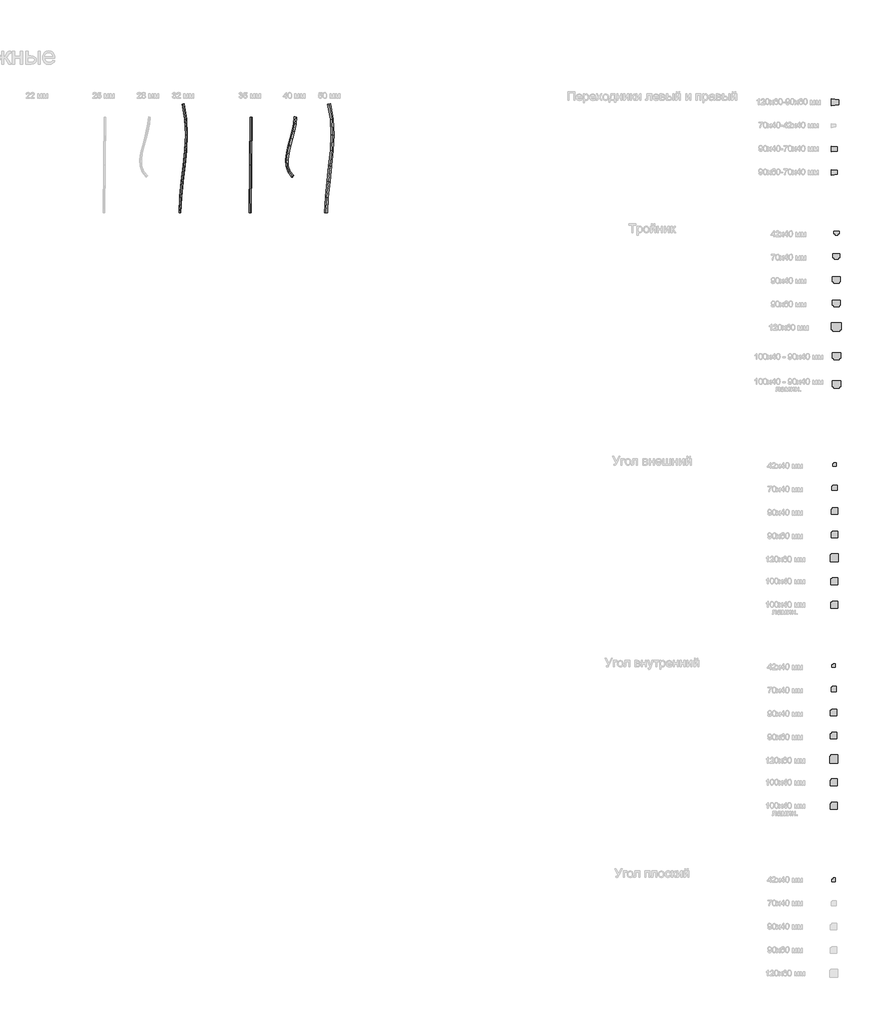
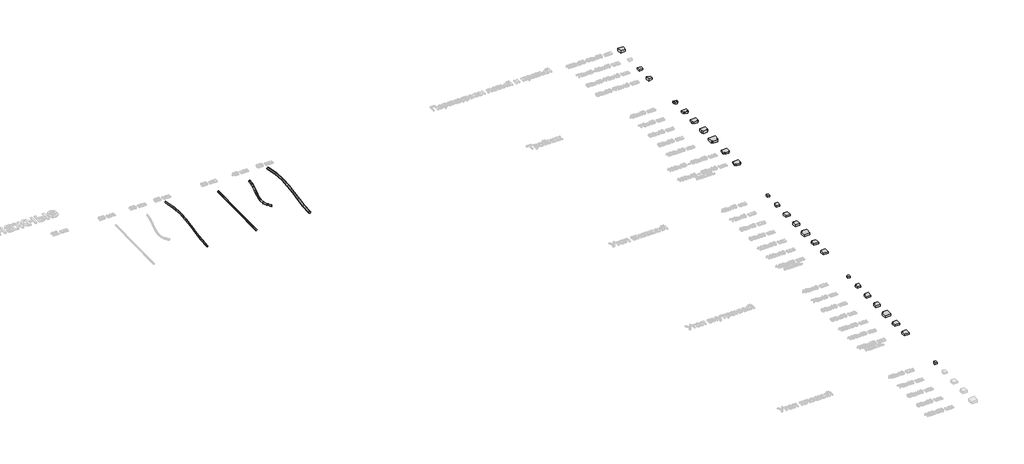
# One storey, part 3 of 21: 25 duct fittings, 4 pipe segments.
"""IFC4 building model written with IfcOpenShell, lengths in millimetres."""

from ifc_helpers import new_model, si_unit, frame, origin, place, context, project, spatial, circle_curve, ellipse_curve, transform, mapped, element, save
from ifc_brep_helpers import plane_surface, cylinder_surface, advanced_brep
from components import duct_fitting_06093752, duct_fitting_1aed79c7, duct_fitting_c945c0e5, duct_fitting_b46aa33a, duct_fitting_86009746, duct_fitting_a73f6a7c, duct_fitting_fd687a1e, duct_fitting_01047fc7, duct_fitting_fa5662ab, duct_fitting_3a38929a, duct_fitting_99bbee2b, duct_fitting_9a85774a, duct_fitting_284b123f, duct_fitting_fdef7a42, duct_fitting_c4454b5f

model = new_model("IFC4")

# Units and contexts
model_context = context("Model", 3, world=origin())
ifc_project = project(units=[si_unit("LENGTHUNIT", "METRE", prefix="MILLI")], contexts=[model_context])

# Site, building, storey
site = spatial("IfcSite", under=ifc_project)
building = spatial("IfcBuilding", under=site)
storey = spatial("IfcBuildingStorey", under=building, Name="Этаж 01", Elevation=0.0)

# Duct fittings
placement = place(None, origin())
duct_fitting_shape = duct_fitting_06093752(model_context)
element("IfcDuctFitting", 1, ObjectType="КНС_Тройник_DKC : Стандарт", at=placement, inside=storey, context=model_context, shape_type="MappedRepresentation", body=[
    mapped(duct_fitting_shape, transform((23924.4316977, -4723.4298614, 0.0), x_axis=(1.0, 0.0, 0.0), y_axis=(0.0, 1.0, 0.0), z_axis=(0.0, 0.0, 1.0))),
])
duct_fitting_2_shape = duct_fitting_1aed79c7(model_context)
element("IfcDuctFitting", 2, ObjectType="КНС_Переходники_DKC : Переходники_DKC", at=placement, inside=storey, context=model_context, shape_type="MappedRepresentation", body=[
    mapped(duct_fitting_2_shape, transform((23840.6780832, -2495.8694479, -0.1437767), x_axis=(0.9999998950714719, 0.0, -0.0004581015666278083), y_axis=(0.0, 1.0000000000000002, 0.0), z_axis=(0.0004581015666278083, 0.0, 0.9999998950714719))),
])
duct_fitting_3_shape = duct_fitting_c945c0e5(model_context)
element("IfcDuctFitting", 3, ObjectType="КНС_Переходники_DKC : Переходники_DKC", at=placement, inside=storey, context=model_context, shape_type="MappedRepresentation", body=[
    mapped(duct_fitting_3_shape, transform((23840.6780832, -3295.8694479, -0.1437767), x_axis=(0.9999999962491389, 0.0, -8.661248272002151e-05), y_axis=(0.0, 1.0, 0.0), z_axis=(8.661248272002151e-05, 0.0, 0.9999999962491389))),
])
duct_fitting_4_shape = duct_fitting_b46aa33a(model_context)
element("IfcDuctFitting", 4, ObjectType="КНС_Переходники_DKC : Переходники_DKC", at=placement, inside=storey, context=model_context, shape_type="MappedRepresentation", body=[
    mapped(duct_fitting_4_shape, transform((23840.6780832, -3695.8694479, -0.1437767), x_axis=(0.9999999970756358, 0.0, -7.647697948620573e-05), y_axis=(0.0, 1.0, 0.0), z_axis=(7.647697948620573e-05, 0.0, 0.9999999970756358))),
])
duct_fitting_5_shape = duct_fitting_86009746(model_context)
element("IfcDuctFitting", 5, ObjectType="КНС_Угол_DKC : Угол внешний", at=placement, inside=storey, context=model_context, shape_type="MappedRepresentation", body=[
    mapped(duct_fitting_5_shape, transform((23900.1829841, -9098.0073447, 0.0), x_axis=(1.0, 0.0, 0.0), y_axis=(0.0, 1.0, 0.0), z_axis=(0.0, 0.0, 1.0))),
])
duct_fitting_6_shape = duct_fitting_a73f6a7c(model_context)
element("IfcDuctFitting", 6, ObjectType="КНС_Угол_DKC : Угол внутренний", at=placement, inside=storey, context=model_context, shape_type="MappedRepresentation", body=[
    mapped(duct_fitting_6_shape, transform((23888.0062655, -12939.0845194, 0.0), x_axis=(1.0, 0.0, 0.0), y_axis=(0.0, 1.0, 0.0), z_axis=(0.0, 0.0, 1.0))),
])
duct_fitting_7_shape = duct_fitting_fd687a1e(model_context)
element("IfcDuctFitting", 7, ObjectType="КНС_Тройник_DKC : Стандарт", at=placement, inside=storey, context=model_context, shape_type="MappedRepresentation", body=[
    mapped(duct_fitting_7_shape, transform((23924.4316977, -5123.4298614, 0.0), x_axis=(1.0, 0.0, 0.0), y_axis=(0.0, 1.0, 0.0), z_axis=(0.0, 0.0, 1.0))),
])
duct_fitting_8_shape = duct_fitting_01047fc7(model_context)
element("IfcDuctFitting", 8, ObjectType="КНС_Тройник_DKC : Стандарт", at=placement, inside=storey, context=model_context, shape_type="MappedRepresentation", body=[
    mapped(duct_fitting_8_shape, transform((23924.4316977, -5523.4298614, 0.0), x_axis=(1.0, 0.0, 0.0), y_axis=(0.0, 1.0, 0.0), z_axis=(0.0, 0.0, 1.0))),
])
duct_fitting_9_shape = duct_fitting_fa5662ab(model_context)
element("IfcDuctFitting", 9, ObjectType="КНС_Тройник_DKC : Стандарт", at=placement, inside=storey, context=model_context, shape_type="MappedRepresentation", body=[
    mapped(duct_fitting_9_shape, transform((23924.4316977, -5923.4298614, 0.0), x_axis=(1.0, 0.0, 0.0), y_axis=(0.0, 1.0, 0.0), z_axis=(0.0, 0.0, 1.0))),
])
duct_fitting_10_shape = duct_fitting_3a38929a(model_context)
element("IfcDuctFitting", 10, ObjectType="КНС_Тройник_DKC : Стандарт", at=placement, inside=storey, context=model_context, shape_type="MappedRepresentation", body=[
    mapped(duct_fitting_10_shape, transform((23924.4316977, -6323.4298614, 0.0), x_axis=(1.0, 0.0, 0.0), y_axis=(0.0, 1.0, 0.0), z_axis=(0.0, 0.0, 1.0))),
])
duct_fitting_11_shape = duct_fitting_99bbee2b(model_context)
element("IfcDuctFitting", 11, ObjectType="КНС_Тройник_DKC : Стандарт", at=placement, inside=storey, context=model_context, shape_type="MappedRepresentation", body=[
    mapped(duct_fitting_11_shape, transform((23926.7685504, -6826.62577, 0.0), x_axis=(1.0, 0.0, 0.0), y_axis=(0.0, 1.0, 0.0), z_axis=(0.0, 0.0, 1.0))),
])
element("IfcDuctFitting", 12, ObjectType="КНС_Тройник_DKC : Стандарт", at=placement, inside=storey, context=model_context, shape_type="MappedRepresentation", body=[
    mapped(duct_fitting_11_shape, transform((23926.7685504, -7311.8186367, 0.0), x_axis=(1.0, 0.0, 0.0), y_axis=(0.0, 1.0, 0.0), z_axis=(0.0, 0.0, 1.0))),
])
duct_fitting_12_shape = duct_fitting_9a85774a(model_context)
element("IfcDuctFitting", 13, ObjectType="КНС_Угол_DKC : Угол внешний", at=placement, inside=storey, context=model_context, shape_type="MappedRepresentation", body=[
    mapped(duct_fitting_12_shape, transform((23900.1829841, -8698.0073447, 0.0), x_axis=(1.0, 0.0, 0.0), y_axis=(0.0, 1.0, 0.0), z_axis=(0.0, 0.0, 1.0))),
])
element("IfcDuctFitting", 14, ObjectType="КНС_Угол_DKC : Угол внешний", at=placement, inside=storey, context=model_context, shape_type="MappedRepresentation", body=[
    mapped(duct_fitting_6_shape, transform((23900.1829841, -9498.0073447, 0.0), x_axis=(1.0, 0.0, 0.0), y_axis=(0.0, 1.0, 0.0), z_axis=(0.0, 0.0, 1.0))),
])
duct_fitting_13_shape = duct_fitting_284b123f(model_context)
element("IfcDuctFitting", 15, ObjectType="КНС_Угол_DKC : Угол внешний", at=placement, inside=storey, context=model_context, shape_type="MappedRepresentation", body=[
    mapped(duct_fitting_13_shape, transform((23900.1829841, -9898.0073447, 0.0), x_axis=(1.0, 0.0, 0.0), y_axis=(0.0, 1.0, 0.0), z_axis=(0.0, 0.0, 1.0))),
])
duct_fitting_14_shape = duct_fitting_fdef7a42(model_context)
element("IfcDuctFitting", 16, ObjectType="КНС_Угол_DKC : Угол внешний", at=placement, inside=storey, context=model_context, shape_type="MappedRepresentation", body=[
    mapped(duct_fitting_14_shape, transform((23900.1829841, -10298.0073447, 0.0), x_axis=(1.0, 0.0, 0.0), y_axis=(0.0, 1.0, 0.0), z_axis=(0.0, 0.0, 1.0))),
])
duct_fitting_15_shape = duct_fitting_c4454b5f(model_context)
element("IfcDuctFitting", 17, ObjectType="КНС_Угол_DKC : Угол внешний", at=placement, inside=storey, context=model_context, shape_type="MappedRepresentation", body=[
    mapped(duct_fitting_15_shape, transform((23900.1829841, -10698.0073447, 0.0), x_axis=(1.0, 0.0, 0.0), y_axis=(0.0, 1.0, 0.0), z_axis=(0.0, 0.0, 1.0))),
])
element("IfcDuctFitting", 18, ObjectType="КНС_Угол_DKC : Угол внешний", at=placement, inside=storey, context=model_context, shape_type="MappedRepresentation", body=[
    mapped(duct_fitting_15_shape, transform((23900.1829841, -11098.0073447, 0.0), x_axis=(1.0, 0.0, 0.0), y_axis=(0.0, 1.0, 0.0), z_axis=(0.0, 0.0, 1.0))),
])
element("IfcDuctFitting", 19, ObjectType="КНС_Угол_DKC : Угол внутренний", at=placement, inside=storey, context=model_context, shape_type="MappedRepresentation", body=[
    mapped(duct_fitting_12_shape, transform((23888.0062655, -12139.0845194, 0.0), x_axis=(1.0, 0.0, 0.0), y_axis=(0.0, 1.0, 0.0), z_axis=(0.0, 0.0, 1.0))),
])
element("IfcDuctFitting", 20, ObjectType="КНС_Угол_DKC : Угол внутренний", at=placement, inside=storey, context=model_context, shape_type="MappedRepresentation", body=[
    mapped(duct_fitting_5_shape, transform((23888.0062655, -12539.0845194, 0.0), x_axis=(1.0, 0.0, 0.0), y_axis=(0.0, 1.0, 0.0), z_axis=(0.0, 0.0, 1.0))),
])
element("IfcDuctFitting", 21, ObjectType="КНС_Угол_DKC : Угол внутренний", at=placement, inside=storey, context=model_context, shape_type="MappedRepresentation", body=[
    mapped(duct_fitting_13_shape, transform((23888.0062655, -13339.0845194, 0.0), x_axis=(1.0, 0.0, 0.0), y_axis=(0.0, 1.0, 0.0), z_axis=(0.0, 0.0, 1.0))),
])
element("IfcDuctFitting", 22, ObjectType="КНС_Угол_DKC : Угол внутренний", at=placement, inside=storey, context=model_context, shape_type="MappedRepresentation", body=[
    mapped(duct_fitting_14_shape, transform((23888.0062655, -13739.0845194, 0.0), x_axis=(1.0, 0.0, 0.0), y_axis=(0.0, 1.0, 0.0), z_axis=(0.0, 0.0, 1.0))),
])
element("IfcDuctFitting", 23, ObjectType="КНС_Угол_DKC : Угол внутренний", at=placement, inside=storey, context=model_context, shape_type="MappedRepresentation", body=[
    mapped(duct_fitting_15_shape, transform((23888.0062655, -14139.0845194, 0.0), x_axis=(1.0, 0.0, 0.0), y_axis=(0.0, 1.0, 0.0), z_axis=(0.0, 0.0, 1.0))),
])
element("IfcDuctFitting", 24, ObjectType="КНС_Угол_DKC : Угол внутренний", at=placement, inside=storey, context=model_context, shape_type="MappedRepresentation", body=[
    mapped(duct_fitting_15_shape, transform((23888.0062655, -14539.0845194, 0.0), x_axis=(1.0, 0.0, 0.0), y_axis=(0.0, 1.0, 0.0), z_axis=(0.0, 0.0, 1.0))),
])
element("IfcDuctFitting", 25, ObjectType="КНС_Угол_DKC : Угол плоский", at=placement, inside=storey, context=model_context, shape_type="MappedRepresentation", body=[
    mapped(duct_fitting_12_shape, transform((23888.0062655, -15803.6960655, 0.0), x_axis=(1.0, 0.0, 0.0), y_axis=(0.0, 1.0, 0.0), z_axis=(0.0, 0.0, 1.0))),
])

# Pipe segments
element("IfcPipeSegment", 26, ObjectType="Шланги дренажные ДКС", at=placement, inside=storey, context=model_context, shape_type="AdvancedBrep", body=[
    advanced_brep(
    [(12759.8479046, -2525.381549, 0.0), (12744.0909127, -2528.159535, -16.0), (12728.3339208, -2530.937521, 0.0), (12744.0909127, -2528.159535, 16.0), (12805.7040434, -2785.4817838, 0.0), (12789.7682496, -2787.2455891, -16.0), (12773.8324558, -2789.0093943, 0.0), (12789.7682496, -2787.2455891, 16.0), (12706.781953, -4384.5212373, 0.0), (12690.8022237, -4383.716097, 16.0), (12674.8224944, -4382.9109567, 0.0), (12690.8022237, -4383.716097, -16.0), (12817.8678662, -3049.9673686, 0.0), (12801.8512205, -3049.9731598, -16.0), (12785.8345748, -3049.9789511, 0.0), (12801.8512205, -3049.9731598, 16.0), (12805.8025081, -3316.5118467, 0.0), (12789.8384436, -3315.3560282, -16.0), (12773.8743791, -3314.2002097, 0.0), (12789.8384436, -3315.3560282, 16.0), (12779.1349651, -3584.142224, 0.0), (12763.2285373, -3582.4079752, -16.0), (12747.3221094, -3580.6737264, 0.0), (12763.2285373, -3582.4079752, 16.0), (12747.4242467, -3851.8964581, 0.0), (12731.5201197, -3850.1427817, -16.0), (12715.6159927, -3848.3891052, 0.0), (12731.5201197, -3850.1427817, 16.0), (12720.1708344, -4118.7902828, 0.0), (12704.2118091, -4117.5742286, -16.0), (12688.2527837, -4116.3581744, 0.0), (12704.2118091, -4117.5742286, 16.0)],
    [
        (0, 1, circle_curve(frame((12744.0909127, -2528.159535, 0.0), z_axis=(-0.17362412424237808, 0.9848119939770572, 0.0), x_axis=(0.9848119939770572, 0.17362412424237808, 0.0)), 16.0)),
        (1, 2, circle_curve(frame((12744.0909127, -2528.159535, 0.0), z_axis=(-0.17362412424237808, 0.9848119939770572, 0.0), x_axis=(0.9848119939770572, 0.17362412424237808, 0.0)), 16.0)),
        (2, 3, circle_curve(frame((12744.0909127, -2528.159535, 0.0), z_axis=(-0.17362412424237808, 0.9848119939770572, 0.0), x_axis=(0.9848119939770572, 0.17362412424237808, 0.0)), 16.0)),
        (3, 0, circle_curve(frame((12744.0909127, -2528.159535, 0.0), z_axis=(-0.17362412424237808, 0.9848119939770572, 0.0), x_axis=(0.9848119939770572, 0.17362412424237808, 0.0)), 16.0)),
        (0, 4),
        (4, 5, ellipse_curve(frame((12789.7682496, -2787.2455891, 0.0), z_axis=(-0.11001019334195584, 0.9939304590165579, 0.0), x_axis=(-0.9939304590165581, -0.1100101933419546, 0.0)), 16.0331074, 16.0)),
        (5, 1),
        (5, 6, ellipse_curve(frame((12789.7682496, -2787.2455891, 0.0), z_axis=(-0.11001019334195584, 0.9939304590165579, 0.0), x_axis=(-0.9939304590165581, -0.1100101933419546, 0.0)), 16.0331074, 16.0)),
        (6, 2),
        (6, 7, ellipse_curve(frame((12789.7682496, -2787.2455891, 0.0), z_axis=(-0.11001019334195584, 0.9939304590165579, 0.0), x_axis=(-0.9939304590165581, -0.1100101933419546, 0.0)), 16.0331074, 16.0)),
        (7, 3),
        (7, 4, ellipse_curve(frame((12789.7682496, -2787.2455891, 0.0), z_axis=(-0.11001019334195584, 0.9939304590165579, 0.0), x_axis=(-0.9939304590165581, -0.1100101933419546, 0.0)), 16.0331074, 16.0)),
        (8, 9, circle_curve(frame((12690.8022237, -4383.716097, 0.0), z_axis=(-0.05032126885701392, -0.9987330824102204, 0.0), x_axis=(0.9987330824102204, -0.05032126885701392, 0.0)), 16.0)),
        (9, 10, circle_curve(frame((12690.8022237, -4383.716097, 0.0), z_axis=(-0.05032126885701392, -0.9987330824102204, 0.0), x_axis=(0.9987330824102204, -0.05032126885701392, 0.0)), 16.0)),
        (10, 11, circle_curve(frame((12690.8022237, -4383.716097, 0.0), z_axis=(-0.05032126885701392, -0.9987330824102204, 0.0), x_axis=(0.9987330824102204, -0.05032126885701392, 0.0)), 16.0)),
        (11, 8, circle_curve(frame((12690.8022237, -4383.716097, 0.0), z_axis=(-0.05032126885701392, -0.9987330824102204, 0.0), x_axis=(0.9987330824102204, -0.05032126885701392, 0.0)), 16.0)),
        (4, 12),
        (12, 13, ellipse_curve(frame((12801.8512205, -3049.9731598, 0.0), z_axis=(-0.00036157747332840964, 0.9999999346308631, 0.0), x_axis=(-0.9999999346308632, -0.0003615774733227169, 0.0)), 16.0166468, 16.0)),
        (13, 5),
        (13, 14, ellipse_curve(frame((12801.8512205, -3049.9731598, 0.0), z_axis=(-0.00036157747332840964, 0.9999999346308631, 0.0), x_axis=(-0.9999999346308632, -0.0003615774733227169, 0.0)), 16.0166468, 16.0)),
        (14, 6),
        (14, 15, ellipse_curve(frame((12801.8512205, -3049.9731598, 0.0), z_axis=(-0.00036157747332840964, 0.9999999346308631, 0.0), x_axis=(-0.9999999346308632, -0.0003615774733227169, 0.0)), 16.0166468, 16.0)),
        (15, 7),
        (15, 12, ellipse_curve(frame((12801.8512205, -3049.9731598, 0.0), z_axis=(-0.00036157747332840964, 0.9999999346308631, 0.0), x_axis=(-0.9999999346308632, -0.0003615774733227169, 0.0)), 16.0166468, 16.0)),
        (12, 16),
        (16, 17, ellipse_curve(frame((12789.8384436, -3315.3560282, 0.0), z_axis=(0.07221224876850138, 0.9973892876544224, 0.0), x_axis=(-0.9973892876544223, 0.0722122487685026, 0.0)), 16.0058512, 16.0)),
        (17, 13),
        (17, 18, ellipse_curve(frame((12789.8384436, -3315.3560282, 0.0), z_axis=(0.07221224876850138, 0.9973892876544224, 0.0), x_axis=(-0.9973892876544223, 0.0722122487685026, 0.0)), 16.0058512, 16.0)),
        (18, 14),
        (18, 19, ellipse_curve(frame((12789.8384436, -3315.3560282, 0.0), z_axis=(0.07221224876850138, 0.9973892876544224, 0.0), x_axis=(-0.9973892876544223, 0.0722122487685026, 0.0)), 16.0058512, 16.0)),
        (19, 15),
        (19, 16, ellipse_curve(frame((12789.8384436, -3315.3560282, 0.0), z_axis=(0.07221224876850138, 0.9973892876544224, 0.0), x_axis=(-0.9973892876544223, 0.0722122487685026, 0.0)), 16.0058512, 16.0)),
        (16, 20),
        (20, 21, ellipse_curve(frame((12763.2285373, -3582.4079752, 0.0), z_axis=(0.10838587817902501, 0.9941088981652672, 0.0), x_axis=(-0.9941088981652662, 0.10838587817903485, 0.0)), 16.0006895, 16.0)),
        (21, 17),
        (21, 22, ellipse_curve(frame((12763.2285373, -3582.4079752, 0.0), z_axis=(0.10838587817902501, 0.9941088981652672, 0.0), x_axis=(-0.9941088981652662, 0.10838587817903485, 0.0)), 16.0006895, 16.0)),
        (22, 18),
        (22, 23, ellipse_curve(frame((12763.2285373, -3582.4079752, 0.0), z_axis=(0.10838587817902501, 0.9941088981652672, 0.0), x_axis=(-0.9941088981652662, 0.10838587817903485, 0.0)), 16.0006895, 16.0)),
        (23, 19),
        (23, 20, ellipse_curve(frame((12763.2285373, -3582.4079752, 0.0), z_axis=(0.10838587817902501, 0.9941088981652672, 0.0), x_axis=(-0.9941088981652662, 0.10838587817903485, 0.0)), 16.0006895, 16.0)),
        (20, 24),
        (24, 25, ellipse_curve(frame((12731.5201197, -3850.1427817, 0.0), z_axis=(0.1096012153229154, 0.9939756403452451, 0.0), x_axis=(0.9939756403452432, -0.10960121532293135, 0.0)), 16.0005199, 16.0)),
        (25, 21),
        (25, 26, ellipse_curve(frame((12731.5201197, -3850.1427817, 0.0), z_axis=(0.1096012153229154, 0.9939756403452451, 0.0), x_axis=(0.9939756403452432, -0.10960121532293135, 0.0)), 16.0005199, 16.0)),
        (26, 22),
        (26, 27, ellipse_curve(frame((12731.5201197, -3850.1427817, 0.0), z_axis=(0.1096012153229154, 0.9939756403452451, 0.0), x_axis=(0.9939756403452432, -0.10960121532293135, 0.0)), 16.0005199, 16.0)),
        (27, 23),
        (27, 24, ellipse_curve(frame((12731.5201197, -3850.1427817, 0.0), z_axis=(0.1096012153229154, 0.9939756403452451, 0.0), x_axis=(0.9939756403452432, -0.10960121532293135, 0.0)), 16.0005199, 16.0)),
        (24, 28),
        (28, 29, ellipse_curve(frame((12704.2118091, -4117.5742286, 0.0), z_axis=(0.07597827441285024, 0.9971094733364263, 0.0), x_axis=(0.997109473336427, -0.0759782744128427, 0.0)), 16.0052891, 16.0)),
        (29, 25),
        (29, 30, ellipse_curve(frame((12704.2118091, -4117.5742286, 0.0), z_axis=(0.07597827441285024, 0.9971094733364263, 0.0), x_axis=(0.997109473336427, -0.0759782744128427, 0.0)), 16.0052891, 16.0)),
        (30, 26),
        (30, 31, ellipse_curve(frame((12704.2118091, -4117.5742286, 0.0), z_axis=(0.07597827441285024, 0.9971094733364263, 0.0), x_axis=(0.997109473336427, -0.0759782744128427, 0.0)), 16.0052891, 16.0)),
        (31, 27),
        (31, 28, ellipse_curve(frame((12704.2118091, -4117.5742286, 0.0), z_axis=(0.07597827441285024, 0.9971094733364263, 0.0), x_axis=(0.997109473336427, -0.0759782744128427, 0.0)), 16.0052891, 16.0)),
        (28, 8),
        (11, 29),
        (10, 30),
        (9, 31),
    ],
    [
        plane_surface(frame((12744.0909127, -2528.159535, -16.0), z_axis=(-0.1736241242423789, 0.9848119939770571, 0.0), x_axis=(0.9848119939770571, 0.1736241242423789, 0.0))),
        cylinder_surface(frame((12744.0909127, -2528.159535, 0.0), z_axis=(-0.17362412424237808, 0.9848119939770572, 0.0), x_axis=(0.9848119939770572, 0.17362412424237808, 0.0)), 16.0),
        plane_surface(frame((12690.8022237, -4383.716097, -16.0), z_axis=(-0.05032126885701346, -0.9987330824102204, 0.0), x_axis=(0.9987330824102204, -0.05032126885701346, 0.0))),
        cylinder_surface(frame((12789.7682496, -2787.2455891, 0.0), z_axis=(-0.045941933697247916, 0.998944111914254, 0.0), x_axis=(0.998944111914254, 0.045941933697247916, 0.0)), 16.0),
        cylinder_surface(frame((12801.8512205, -3049.9731598, 0.0), z_axis=(0.04521953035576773, 0.998977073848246, 0.0), x_axis=(0.998977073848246, -0.04521953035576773, 0.0)), 16.0),
        cylinder_surface(frame((12789.8384436, -3315.3560282, 0.0), z_axis=(0.09915217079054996, 0.9950722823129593, 0.0), x_axis=(0.9950722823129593, -0.09915217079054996, 0.0)), 16.0),
        cylinder_surface(frame((12763.2285373, -3582.4079752, 0.0), z_axis=(0.11761024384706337, 0.993059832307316, 0.0), x_axis=(0.993059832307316, -0.11761024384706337, 0.0)), 16.0),
        cylinder_surface(frame((12731.5201197, -3850.1427817, 0.0), z_axis=(0.10158506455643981, 0.9948268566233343, 0.0), x_axis=(0.9948268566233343, -0.10158506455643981, 0.0)), 16.0),
        cylinder_surface(frame((12704.2118091, -4117.5742286, 0.0), z_axis=(0.05032126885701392, 0.9987330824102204, 0.0), x_axis=(0.9987330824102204, -0.05032126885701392, 0.0)), 16.0),
    ],
    [
        (0, [[1, 2, 3, 4]]),
        (1, [[-1, 5, 6, 7]]),
        (1, [[-2, -7, 8, 9]]),
        (1, [[-3, -9, 10, 11]]),
        (1, [[-4, -11, 12, -5]]),
        (2, [[13, 14, 15, 16]]),
        (3, [[-6, 17, 18, 19]]),
        (3, [[-8, -19, 20, 21]]),
        (3, [[-10, -21, 22, 23]]),
        (3, [[-12, -23, 24, -17]]),
        (4, [[-18, 25, 26, 27]]),
        (4, [[-20, -27, 28, 29]]),
        (4, [[-22, -29, 30, 31]]),
        (4, [[-24, -31, 32, -25]]),
        (5, [[-26, 33, 34, 35]]),
        (5, [[-28, -35, 36, 37]]),
        (5, [[-30, -37, 38, 39]]),
        (5, [[-32, -39, 40, -33]]),
        (6, [[-34, 41, 42, 43]]),
        (6, [[-36, -43, 44, 45]]),
        (6, [[-38, -45, 46, 47]]),
        (6, [[-40, -47, 48, -41]]),
        (7, [[-42, 49, 50, 51]]),
        (7, [[-44, -51, 52, 53]]),
        (7, [[-46, -53, 54, 55]]),
        (7, [[-48, -55, 56, -49]]),
        (8, [[-50, 57, -16, 58]]),
        (8, [[-52, -58, -15, 59]]),
        (8, [[-54, -59, -14, 60]]),
        (8, [[-56, -60, -13, -57]]),
    ],
),
])
element("IfcPipeSegment", 27, ObjectType="Шланги дренажные ДКС", at=placement, inside=storey, context=model_context, shape_type="AdvancedBrep", body=[
    advanced_brep(
    [(14687.1212574, -2751.0021499, 0.0), (14667.2101295, -2749.1188064, -20.0), (14647.2990015, -2747.2354629, 0.0), (14667.2101295, -2749.1188064, 20.0), (14675.9603657, -2868.9975911, 0.0), (14656.1552474, -2865.9934903, -20.0), (14636.350129, -2862.9893895, 0.0), (14656.1552474, -2865.9934903, 20.0), (14636.6761309, -3750.4639511, 0.0), (14623.6037335, -3765.6004113, 20.0), (14610.5313361, -3780.7368714, 0.0), (14623.6037335, -3765.6004113, -20.0), (14649.8970168, -2993.2496113, 0.0), (14630.4331674, -2988.6185758, -20.0), (14610.9693181, -2983.9875402, 0.0), (14630.4331674, -2988.6185758, 20.0), (14616.3208516, -3119.2578159, 0.0), (14596.9951595, -3114.108289, -20.0), (14577.6694675, -3108.9587622, 0.0), (14596.9951595, -3114.108289, 20.0), (14582.197312, -3244.4373621, 0.0), (14562.7924934, -3239.5768561, -20.0), (14543.3876749, -3234.7163501, 0.0), (14562.7924934, -3239.5768561, 20.0), (14554.4920852, -3365.6392333, 0.0), (14534.776439, -3362.1385031, -20.0), (14515.0607928, -3358.6377728, 0.0), (14534.776439, -3362.1385031, 20.0), (14539.959503, -3479.6958719, 0.0), (14519.8982659, -3478.907456, -20.0), (14499.8370289, -3478.11904, 0.0), (14519.8982659, -3478.907456, 20.0), (14544.9531301, -3583.2778791, 0.0), (14525.1092441, -3586.9979409, -20.0), (14505.2653581, -3590.7180027, 0.0), (14525.1092441, -3586.9979409, 20.0), (14575.2258508, -3673.8820719, 0.0), (14557.3606434, -3683.524184, -20.0), (14539.4954359, -3693.1662961, 0.0), (14557.3606434, -3683.524184, 20.0), (14633.2152644, -3747.4750209, 0.0), (14618.6923657, -3761.3587754, -20.0), (14604.169467, -3775.2425299, 0.0), (14618.6923657, -3761.3587754, 20.0)],
    [
        (0, 1, circle_curve(frame((14667.2101295, -2749.1188064, 0.0), z_axis=(0.09416717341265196, 0.9955563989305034, 0.0), x_axis=(0.9955563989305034, -0.09416717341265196, 0.0)), 20.0)),
        (1, 2, circle_curve(frame((14667.2101295, -2749.1188064, 0.0), z_axis=(0.09416717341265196, 0.9955563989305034, 0.0), x_axis=(0.9955563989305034, -0.09416717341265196, 0.0)), 20.0)),
        (2, 3, circle_curve(frame((14667.2101295, -2749.1188064, 0.0), z_axis=(0.09416717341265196, 0.9955563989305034, 0.0), x_axis=(0.9955563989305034, -0.09416717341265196, 0.0)), 20.0)),
        (3, 0, circle_curve(frame((14667.2101295, -2749.1188064, 0.0), z_axis=(0.09416717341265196, 0.9955563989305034, 0.0), x_axis=(0.9955563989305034, -0.09416717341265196, 0.0)), 20.0)),
        (0, 4),
        (4, 5, ellipse_curve(frame((14656.1552474, -2865.9934903, 0.0), z_axis=(0.14996765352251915, 0.988690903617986, 0.0), x_axis=(-0.988690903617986, 0.14996765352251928, 0.0)), 20.0316583, 20.0)),
        (5, 1),
        (5, 6, ellipse_curve(frame((14656.1552474, -2865.9934903, 0.0), z_axis=(0.14996765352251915, 0.988690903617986, 0.0), x_axis=(-0.988690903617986, 0.14996765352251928, 0.0)), 20.0316583, 20.0)),
        (6, 2),
        (6, 7, ellipse_curve(frame((14656.1552474, -2865.9934903, 0.0), z_axis=(0.14996765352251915, 0.988690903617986, 0.0), x_axis=(-0.988690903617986, 0.14996765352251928, 0.0)), 20.0316583, 20.0)),
        (7, 3),
        (7, 4, ellipse_curve(frame((14656.1552474, -2865.9934903, 0.0), z_axis=(0.14996765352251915, 0.988690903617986, 0.0), x_axis=(-0.988690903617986, 0.14996765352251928, 0.0)), 20.0316583, 20.0)),
        (8, 9, circle_curve(frame((14623.6037335, -3765.6004113, 0.0), z_axis=(0.7568230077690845, -0.6536198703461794, 0.0), x_axis=(0.6536198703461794, 0.7568230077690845, 0.0)), 20.0)),
        (9, 10, circle_curve(frame((14623.6037335, -3765.6004113, 0.0), z_axis=(0.7568230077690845, -0.6536198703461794, 0.0), x_axis=(0.6536198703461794, 0.7568230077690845, 0.0)), 20.0)),
        (10, 11, circle_curve(frame((14623.6037335, -3765.6004113, 0.0), z_axis=(0.7568230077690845, -0.6536198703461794, 0.0), x_axis=(0.6536198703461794, 0.7568230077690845, 0.0)), 20.0)),
        (11, 8, circle_curve(frame((14623.6037335, -3765.6004113, 0.0), z_axis=(0.7568230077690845, -0.6536198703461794, 0.0), x_axis=(0.6536198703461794, 0.7568230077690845, 0.0)), 20.0)),
        (4, 12),
        (12, 13, ellipse_curve(frame((14630.4331674, -2988.6185758, 0.0), z_axis=(0.23146848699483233, 0.9728424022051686, 0.0), x_axis=(-0.9728424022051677, 0.2314684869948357, 0.0)), 20.0071967, 20.0)),
        (13, 5),
        (13, 14, ellipse_curve(frame((14630.4331674, -2988.6185758, 0.0), z_axis=(0.23146848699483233, 0.9728424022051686, 0.0), x_axis=(-0.9728424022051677, 0.2314684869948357, 0.0)), 20.0071967, 20.0)),
        (14, 6),
        (14, 15, ellipse_curve(frame((14630.4331674, -2988.6185758, 0.0), z_axis=(0.23146848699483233, 0.9728424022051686, 0.0), x_axis=(-0.9728424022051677, 0.2314684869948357, 0.0)), 20.0071967, 20.0)),
        (15, 7),
        (15, 12, ellipse_curve(frame((14630.4331674, -2988.6185758, 0.0), z_axis=(0.23146848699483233, 0.9728424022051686, 0.0), x_axis=(-0.9728424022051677, 0.2314684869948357, 0.0)), 20.0071967, 20.0)),
        (12, 16),
        (16, 17, circle_curve(frame((14596.9951595, -3114.108289, 0.0), z_axis=(0.2574763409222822, 0.9662846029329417, 0.0), x_axis=(0.9662846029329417, -0.2574763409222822, 0.0)), 20.0)),
        (17, 13),
        (17, 18, circle_curve(frame((14596.9951595, -3114.108289, 0.0), z_axis=(0.2574763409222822, 0.9662846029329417, 0.0), x_axis=(0.9662846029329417, -0.2574763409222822, 0.0)), 20.0)),
        (18, 14),
        (18, 19, circle_curve(frame((14596.9951595, -3114.108289, 0.0), z_axis=(0.2574763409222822, 0.9662846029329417, 0.0), x_axis=(0.9662846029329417, -0.2574763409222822, 0.0)), 20.0)),
        (19, 15),
        (19, 16, circle_curve(frame((14596.9951595, -3114.108289, 0.0), z_axis=(0.2574763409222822, 0.9662846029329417, 0.0), x_axis=(0.9662846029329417, -0.2574763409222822, 0.0)), 20.0)),
        (16, 20),
        (20, 21, ellipse_curve(frame((14562.7924934, -3239.5768561, 0.0), z_axis=(0.24297321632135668, 0.970032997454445, 0.0), x_axis=(0.9700329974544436, -0.2429732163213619, 0.0)), 20.0042871, 20.0)),
        (21, 17),
        (21, 22, ellipse_curve(frame((14562.7924934, -3239.5768561, 0.0), z_axis=(0.24297321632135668, 0.970032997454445, 0.0), x_axis=(0.9700329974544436, -0.2429732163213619, 0.0)), 20.0042871, 20.0)),
        (22, 18),
        (22, 23, ellipse_curve(frame((14562.7924934, -3239.5768561, 0.0), z_axis=(0.24297321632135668, 0.970032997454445, 0.0), x_axis=(0.9700329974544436, -0.2429732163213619, 0.0)), 20.0042871, 20.0)),
        (23, 19),
        (23, 20, ellipse_curve(frame((14562.7924934, -3239.5768561, 0.0), z_axis=(0.24297321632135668, 0.970032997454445, 0.0), x_axis=(0.9700329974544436, -0.2429732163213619, 0.0)), 20.0042871, 20.0)),
        (20, 24),
        (24, 25, ellipse_curve(frame((14534.776439, -3362.1385031, 0.0), z_axis=(0.17482645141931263, 0.9845992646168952, 0.0), x_axis=(0.9845992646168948, -0.17482645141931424, 0.0)), 20.024031, 20.0)),
        (25, 21),
        (25, 26, ellipse_curve(frame((14534.776439, -3362.1385031, 0.0), z_axis=(0.17482645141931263, 0.9845992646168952, 0.0), x_axis=(0.9845992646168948, -0.17482645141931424, 0.0)), 20.024031, 20.0)),
        (26, 22),
        (26, 27, ellipse_curve(frame((14534.776439, -3362.1385031, 0.0), z_axis=(0.17482645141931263, 0.9845992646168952, 0.0), x_axis=(0.9845992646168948, -0.17482645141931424, 0.0)), 20.024031, 20.0)),
        (27, 23),
        (27, 24, ellipse_curve(frame((14534.776439, -3362.1385031, 0.0), z_axis=(0.17482645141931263, 0.9845992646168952, 0.0), x_axis=(0.9845992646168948, -0.17482645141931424, 0.0)), 20.024031, 20.0)),
        (24, 28),
        (28, 29, ellipse_curve(frame((14519.8982659, -3478.907456, 0.0), z_axis=(0.03927014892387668, 0.9992286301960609, 0.0), x_axis=(0.9992286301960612, -0.03927014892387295, 0.0)), 20.0767236, 20.0)),
        (29, 25),
        (29, 30, ellipse_curve(frame((14519.8982659, -3478.907456, 0.0), z_axis=(0.03927014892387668, 0.9992286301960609, 0.0), x_axis=(0.9992286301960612, -0.03927014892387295, 0.0)), 20.0767236, 20.0)),
        (30, 26),
        (30, 31, ellipse_curve(frame((14519.8982659, -3478.907456, 0.0), z_axis=(0.03927014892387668, 0.9992286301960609, 0.0), x_axis=(0.9992286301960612, -0.03927014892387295, 0.0)), 20.0767236, 20.0)),
        (31, 27),
        (31, 28, ellipse_curve(frame((14519.8982659, -3478.907456, 0.0), z_axis=(0.03927014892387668, 0.9992286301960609, 0.0), x_axis=(0.9992286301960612, -0.03927014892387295, 0.0)), 20.0767236, 20.0)),
        (28, 32),
        (32, 33, ellipse_curve(frame((14525.1092441, -3586.9979409, 0.0), z_axis=(-0.18425662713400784, 0.9828781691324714, 0.0), x_axis=(0.9828781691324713, 0.1842566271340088, 0.0)), 20.1895684, 20.0)),
        (33, 29),
        (33, 34, ellipse_curve(frame((14525.1092441, -3586.9979409, 0.0), z_axis=(-0.18425662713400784, 0.9828781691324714, 0.0), x_axis=(0.9828781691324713, 0.1842566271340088, 0.0)), 20.1895684, 20.0)),
        (34, 30),
        (34, 35, ellipse_curve(frame((14525.1092441, -3586.9979409, 0.0), z_axis=(-0.18425662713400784, 0.9828781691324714, 0.0), x_axis=(0.9828781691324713, 0.1842566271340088, 0.0)), 20.1895684, 20.0)),
        (35, 31),
        (35, 32, ellipse_curve(frame((14525.1092441, -3586.9979409, 0.0), z_axis=(-0.18425662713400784, 0.9828781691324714, 0.0), x_axis=(0.9828781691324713, 0.1842566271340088, 0.0)), 20.1895684, 20.0)),
        (32, 36),
        (36, 37, ellipse_curve(frame((14557.3606434, -3683.524184, 0.0), z_axis=(-0.47495440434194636, 0.8800104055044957, 0.0), x_axis=(0.8800104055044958, 0.47495440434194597, 0.0)), 20.301132, 20.0)),
        (37, 33),
        (37, 38, ellipse_curve(frame((14557.3606434, -3683.524184, 0.0), z_axis=(-0.47495440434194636, 0.8800104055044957, 0.0), x_axis=(0.8800104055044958, 0.47495440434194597, 0.0)), 20.301132, 20.0)),
        (38, 34),
        (38, 39, ellipse_curve(frame((14557.3606434, -3683.524184, 0.0), z_axis=(-0.47495440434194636, 0.8800104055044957, 0.0), x_axis=(0.8800104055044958, 0.47495440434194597, 0.0)), 20.301132, 20.0)),
        (39, 35),
        (39, 36, ellipse_curve(frame((14557.3606434, -3683.524184, 0.0), z_axis=(-0.47495440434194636, 0.8800104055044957, 0.0), x_axis=(0.8800104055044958, 0.47495440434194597, 0.0)), 20.301132, 20.0)),
        (36, 40),
        (40, 41, ellipse_curve(frame((14618.6923657, -3761.3587754, 0.0), z_axis=(-0.6910221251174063, 0.7228336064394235, 0.0), x_axis=(0.7228336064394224, 0.6910221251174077, 0.0)), 20.0916208, 20.0)),
        (41, 37),
        (41, 42, ellipse_curve(frame((14618.6923657, -3761.3587754, 0.0), z_axis=(-0.6910221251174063, 0.7228336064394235, 0.0), x_axis=(0.7228336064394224, 0.6910221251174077, 0.0)), 20.0916208, 20.0)),
        (42, 38),
        (42, 43, ellipse_curve(frame((14618.6923657, -3761.3587754, 0.0), z_axis=(-0.6910221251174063, 0.7228336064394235, 0.0), x_axis=(0.7228336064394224, 0.6910221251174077, 0.0)), 20.0916208, 20.0)),
        (43, 39),
        (43, 40, ellipse_curve(frame((14618.6923657, -3761.3587754, 0.0), z_axis=(-0.6910221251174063, 0.7228336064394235, 0.0), x_axis=(0.7228336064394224, 0.6910221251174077, 0.0)), 20.0916208, 20.0)),
        (40, 8),
        (11, 41),
        (10, 42),
        (9, 43),
    ],
    [
        plane_surface(frame((14667.2101295, -2749.1188064, -20.0), z_axis=(0.0941671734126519, 0.9955563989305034, 0.0), x_axis=(0.9955563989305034, -0.0941671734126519, 0.0))),
        cylinder_surface(frame((14667.2101295, -2749.1188064, 0.0), z_axis=(0.09416717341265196, 0.9955563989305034, 0.0), x_axis=(0.9955563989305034, -0.09416717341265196, 0.0)), 20.0),
        plane_surface(frame((14623.6037335, -3765.6004113, -20.0), z_axis=(0.7568230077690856, -0.653619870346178, 0.0), x_axis=(0.653619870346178, 0.7568230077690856, 0.0))),
        cylinder_surface(frame((14656.1552474, -2865.9934903, 0.0), z_axis=(0.205294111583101, 0.9787003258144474, 0.0), x_axis=(0.9787003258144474, -0.205294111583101, 0.0)), 20.0),
        cylinder_surface(frame((14630.4331674, -2988.6185758, 0.0), z_axis=(0.2574763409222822, 0.9662846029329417, 0.0), x_axis=(0.9662846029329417, -0.2574763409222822, 0.0)), 20.0),
        cylinder_surface(frame((14596.9951595, -3114.108289, 0.0), z_axis=(0.26300264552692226, 0.9647951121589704, 0.0), x_axis=(0.9647951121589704, -0.26300264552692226, 0.0)), 20.0),
        cylinder_surface(frame((14562.7924934, -3239.5768561, 0.0), z_axis=(0.22283964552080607, 0.9748551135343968, 0.0), x_axis=(0.9748551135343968, -0.22283964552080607, 0.0)), 20.0),
        cylinder_surface(frame((14534.776439, -3362.1385031, 0.0), z_axis=(0.12639363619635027, 0.9919801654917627, 0.0), x_axis=(0.9919801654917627, -0.12639363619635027, 0.0)), 20.0),
        cylinder_surface(frame((14519.8982659, -3478.907456, 0.0), z_axis=(-0.04815348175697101, 0.9988399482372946, 0.0), x_axis=(0.9988399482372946, 0.04815348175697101, 0.0)), 20.0),
        cylinder_surface(frame((14525.1092441, -3586.9979409, 0.0), z_axis=(-0.31689964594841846, 0.9484590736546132, 0.0), x_axis=(0.9484590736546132, 0.31689964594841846, 0.0)), 20.0),
        cylinder_surface(frame((14557.3606434, -3683.524184, 0.0), z_axis=(-0.6189189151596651, 0.785454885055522, 0.0), x_axis=(0.785454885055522, 0.6189189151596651, 0.0)), 20.0),
        cylinder_surface(frame((14618.6923657, -3761.3587754, 0.0), z_axis=(-0.7568230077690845, 0.6536198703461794, 0.0), x_axis=(0.6536198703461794, 0.7568230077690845, 0.0)), 20.0),
    ],
    [
        (0, [[1, 2, 3, 4]]),
        (1, [[-1, 5, 6, 7]]),
        (1, [[-2, -7, 8, 9]]),
        (1, [[-3, -9, 10, 11]]),
        (1, [[-4, -11, 12, -5]]),
        (2, [[13, 14, 15, 16]]),
        (3, [[-6, 17, 18, 19]]),
        (3, [[-8, -19, 20, 21]]),
        (3, [[-10, -21, 22, 23]]),
        (3, [[-12, -23, 24, -17]]),
        (4, [[-18, 25, 26, 27]]),
        (4, [[-20, -27, 28, 29]]),
        (4, [[-22, -29, 30, 31]]),
        (4, [[-24, -31, 32, -25]]),
        (5, [[-26, 33, 34, 35]]),
        (5, [[-28, -35, 36, 37]]),
        (5, [[-30, -37, 38, 39]]),
        (5, [[-32, -39, 40, -33]]),
        (6, [[-34, 41, 42, 43]]),
        (6, [[-36, -43, 44, 45]]),
        (6, [[-38, -45, 46, 47]]),
        (6, [[-40, -47, 48, -41]]),
        (7, [[-42, 49, 50, 51]]),
        (7, [[-44, -51, 52, 53]]),
        (7, [[-46, -53, 54, 55]]),
        (7, [[-48, -55, 56, -49]]),
        (8, [[-50, 57, 58, 59]]),
        (8, [[-52, -59, 60, 61]]),
        (8, [[-54, -61, 62, 63]]),
        (8, [[-56, -63, 64, -57]]),
        (9, [[-58, 65, 66, 67]]),
        (9, [[-60, -67, 68, 69]]),
        (9, [[-62, -69, 70, 71]]),
        (9, [[-64, -71, 72, -65]]),
        (10, [[-66, 73, 74, 75]]),
        (10, [[-68, -75, 76, 77]]),
        (10, [[-70, -77, 78, 79]]),
        (10, [[-72, -79, 80, -73]]),
        (11, [[-74, 81, -16, 82]]),
        (11, [[-76, -82, -15, 83]]),
        (11, [[-78, -83, -14, 84]]),
        (11, [[-80, -84, -13, -81]]),
    ],
),
])
element("IfcPipeSegment", 28, ObjectType="Шланги дренажные ДКС", at=placement, inside=storey, context=model_context, shape_type="AdvancedBrep", body=[
    advanced_brep(
    [(15268.7112125, -2523.8189319, 0.0), (15244.0909127, -2528.159535, -25.0), (15219.4706128, -2532.5001381, 0.0), (15244.0909127, -2528.159535, 25.0), (15314.6679274, -2784.4896434, 0.0), (15289.7682496, -2787.2455891, -25.0), (15264.8685718, -2790.0015348, 0.0), (15289.7682496, -2787.2455891, 25.0), (15215.7705508, -4384.9741287, 0.0), (15190.8022237, -4383.716097, 25.0), (15165.8338966, -4382.4580652, 0.0), (15190.8022237, -4383.716097, -25.0), (15326.8772294, -3049.964111, 0.0), (15301.8512205, -3049.9731598, -25.0), (15276.8252115, -3049.9822087, 0.0), (15301.8512205, -3049.9731598, 25.0), (15314.7822944, -3317.1619946, 0.0), (15289.8384436, -3315.3560282, -25.0), (15264.8945929, -3313.5500618, 0.0), (15289.8384436, -3315.3560282, 25.0), (15288.0823308, -3585.1177389, 0.0), (15263.2285373, -3582.4079752, -25.0), (15238.3747438, -3579.6982114, 0.0), (15263.2285373, -3582.4079752, 25.0), (15256.3703181, -3852.8829011, 0.0), (15231.5201197, -3850.1427817, -25.0), (15206.6699212, -3847.4026622, 0.0), (15231.5201197, -3850.1427817, 25.0), (15229.1477862, -4119.4743134, 0.0), (15204.2118091, -4117.5742286, -25.0), (15179.2758319, -4115.6741438, 0.0), (15204.2118091, -4117.5742286, 25.0)],
    [
        (0, 1, circle_curve(frame((15244.0909127, -2528.159535, 0.0), z_axis=(-0.17362412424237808, 0.9848119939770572, 0.0), x_axis=(0.9848119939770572, 0.17362412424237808, 0.0)), 25.0)),
        (1, 2, circle_curve(frame((15244.0909127, -2528.159535, 0.0), z_axis=(-0.17362412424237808, 0.9848119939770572, 0.0), x_axis=(0.9848119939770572, 0.17362412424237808, 0.0)), 25.0)),
        (2, 3, circle_curve(frame((15244.0909127, -2528.159535, 0.0), z_axis=(-0.17362412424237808, 0.9848119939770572, 0.0), x_axis=(0.9848119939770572, 0.17362412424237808, 0.0)), 25.0)),
        (3, 0, circle_curve(frame((15244.0909127, -2528.159535, 0.0), z_axis=(-0.17362412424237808, 0.9848119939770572, 0.0), x_axis=(0.9848119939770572, 0.17362412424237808, 0.0)), 25.0)),
        (0, 4),
        (4, 5, ellipse_curve(frame((15289.7682496, -2787.2455891, 0.0), z_axis=(-0.11001019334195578, 0.9939304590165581, 0.0), x_axis=(-0.9939304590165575, -0.11001019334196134, 0.0)), 25.0517303, 25.0)),
        (5, 1),
        (5, 6, ellipse_curve(frame((15289.7682496, -2787.2455891, 0.0), z_axis=(-0.11001019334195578, 0.9939304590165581, 0.0), x_axis=(-0.9939304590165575, -0.11001019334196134, 0.0)), 25.0517303, 25.0)),
        (6, 2),
        (6, 7, ellipse_curve(frame((15289.7682496, -2787.2455891, 0.0), z_axis=(-0.11001019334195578, 0.9939304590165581, 0.0), x_axis=(-0.9939304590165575, -0.11001019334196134, 0.0)), 25.0517303, 25.0)),
        (7, 3),
        (7, 4, ellipse_curve(frame((15289.7682496, -2787.2455891, 0.0), z_axis=(-0.11001019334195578, 0.9939304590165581, 0.0), x_axis=(-0.9939304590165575, -0.11001019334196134, 0.0)), 25.0517303, 25.0)),
        (8, 9, circle_curve(frame((15190.8022237, -4383.716097, 0.0), z_axis=(-0.05032126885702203, -0.9987330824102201, 0.0), x_axis=(0.9987330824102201, -0.05032126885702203, 0.0)), 25.0)),
        (9, 10, circle_curve(frame((15190.8022237, -4383.716097, 0.0), z_axis=(-0.05032126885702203, -0.9987330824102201, 0.0), x_axis=(0.9987330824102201, -0.05032126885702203, 0.0)), 25.0)),
        (10, 11, circle_curve(frame((15190.8022237, -4383.716097, 0.0), z_axis=(-0.05032126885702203, -0.9987330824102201, 0.0), x_axis=(0.9987330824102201, -0.05032126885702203, 0.0)), 25.0)),
        (11, 8, circle_curve(frame((15190.8022237, -4383.716097, 0.0), z_axis=(-0.05032126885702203, -0.9987330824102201, 0.0), x_axis=(0.9987330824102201, -0.05032126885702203, 0.0)), 25.0)),
        (4, 12),
        (12, 13, ellipse_curve(frame((15301.8512205, -3049.9731598, 0.0), z_axis=(-0.00036157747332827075, 0.9999999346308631, 0.0), x_axis=(-0.9999999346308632, -0.0003615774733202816, 0.0)), 25.0260106, 25.0)),
        (13, 5),
        (13, 14, ellipse_curve(frame((15301.8512205, -3049.9731598, 0.0), z_axis=(-0.00036157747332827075, 0.9999999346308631, 0.0), x_axis=(-0.9999999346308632, -0.0003615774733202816, 0.0)), 25.0260106, 25.0)),
        (14, 6),
        (14, 15, ellipse_curve(frame((15301.8512205, -3049.9731598, 0.0), z_axis=(-0.00036157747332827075, 0.9999999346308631, 0.0), x_axis=(-0.9999999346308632, -0.0003615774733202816, 0.0)), 25.0260106, 25.0)),
        (15, 7),
        (15, 12, ellipse_curve(frame((15301.8512205, -3049.9731598, 0.0), z_axis=(-0.00036157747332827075, 0.9999999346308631, 0.0), x_axis=(-0.9999999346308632, -0.0003615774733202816, 0.0)), 25.0260106, 25.0)),
        (12, 16),
        (16, 17, ellipse_curve(frame((15289.8384436, -3315.3560282, 0.0), z_axis=(0.07221224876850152, 0.9973892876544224, 0.0), x_axis=(-0.9973892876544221, 0.07221224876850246, 0.0)), 25.0091424, 25.0)),
        (17, 13),
        (17, 18, ellipse_curve(frame((15289.8384436, -3315.3560282, 0.0), z_axis=(0.07221224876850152, 0.9973892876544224, 0.0), x_axis=(-0.9973892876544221, 0.07221224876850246, 0.0)), 25.0091424, 25.0)),
        (18, 14),
        (18, 19, ellipse_curve(frame((15289.8384436, -3315.3560282, 0.0), z_axis=(0.07221224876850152, 0.9973892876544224, 0.0), x_axis=(-0.9973892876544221, 0.07221224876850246, 0.0)), 25.0091424, 25.0)),
        (19, 15),
        (19, 16, ellipse_curve(frame((15289.8384436, -3315.3560282, 0.0), z_axis=(0.07221224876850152, 0.9973892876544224, 0.0), x_axis=(-0.9973892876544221, 0.07221224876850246, 0.0)), 25.0091424, 25.0)),
        (16, 20),
        (20, 21, ellipse_curve(frame((15263.2285373, -3582.4079752, 0.0), z_axis=(0.10838587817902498, 0.9941088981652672, 0.0), x_axis=(-0.9941088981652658, 0.10838587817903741, 0.0)), 25.0010774, 25.0)),
        (21, 17),
        (21, 22, ellipse_curve(frame((15263.2285373, -3582.4079752, 0.0), z_axis=(0.10838587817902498, 0.9941088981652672, 0.0), x_axis=(-0.9941088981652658, 0.10838587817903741, 0.0)), 25.0010774, 25.0)),
        (22, 18),
        (22, 23, ellipse_curve(frame((15263.2285373, -3582.4079752, 0.0), z_axis=(0.10838587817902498, 0.9941088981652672, 0.0), x_axis=(-0.9941088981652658, 0.10838587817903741, 0.0)), 25.0010774, 25.0)),
        (23, 19),
        (23, 20, ellipse_curve(frame((15263.2285373, -3582.4079752, 0.0), z_axis=(0.10838587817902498, 0.9941088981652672, 0.0), x_axis=(-0.9941088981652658, 0.10838587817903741, 0.0)), 25.0010774, 25.0)),
        (20, 24),
        (24, 25, ellipse_curve(frame((15231.5201197, -3850.1427817, 0.0), z_axis=(0.10960121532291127, 0.9939756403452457, 0.0), x_axis=(0.9939756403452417, -0.10960121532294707, 0.0)), 25.0008123, 25.0)),
        (25, 21),
        (25, 26, ellipse_curve(frame((15231.5201197, -3850.1427817, 0.0), z_axis=(0.10960121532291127, 0.9939756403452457, 0.0), x_axis=(0.9939756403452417, -0.10960121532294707, 0.0)), 25.0008123, 25.0)),
        (26, 22),
        (26, 27, ellipse_curve(frame((15231.5201197, -3850.1427817, 0.0), z_axis=(0.10960121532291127, 0.9939756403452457, 0.0), x_axis=(0.9939756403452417, -0.10960121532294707, 0.0)), 25.0008123, 25.0)),
        (27, 23),
        (27, 24, ellipse_curve(frame((15231.5201197, -3850.1427817, 0.0), z_axis=(0.10960121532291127, 0.9939756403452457, 0.0), x_axis=(0.9939756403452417, -0.10960121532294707, 0.0)), 25.0008123, 25.0)),
        (24, 28),
        (28, 29, ellipse_curve(frame((15204.2118091, -4117.5742286, 0.0), z_axis=(0.07597827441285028, 0.9971094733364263, 0.0), x_axis=(0.9971094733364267, -0.07597827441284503, 0.0)), 25.0082642, 25.0)),
        (29, 25),
        (29, 30, ellipse_curve(frame((15204.2118091, -4117.5742286, 0.0), z_axis=(0.07597827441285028, 0.9971094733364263, 0.0), x_axis=(0.9971094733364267, -0.07597827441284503, 0.0)), 25.0082642, 25.0)),
        (30, 26),
        (30, 31, ellipse_curve(frame((15204.2118091, -4117.5742286, 0.0), z_axis=(0.07597827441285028, 0.9971094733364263, 0.0), x_axis=(0.9971094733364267, -0.07597827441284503, 0.0)), 25.0082642, 25.0)),
        (31, 27),
        (31, 28, ellipse_curve(frame((15204.2118091, -4117.5742286, 0.0), z_axis=(0.07597827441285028, 0.9971094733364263, 0.0), x_axis=(0.9971094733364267, -0.07597827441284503, 0.0)), 25.0082642, 25.0)),
        (28, 8),
        (11, 29),
        (10, 30),
        (9, 31),
    ],
    [
        plane_surface(frame((15244.0909127, -2528.159535, -25.0), z_axis=(-0.1736241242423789, 0.9848119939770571, 0.0), x_axis=(0.9848119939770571, 0.1736241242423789, 0.0))),
        cylinder_surface(frame((15244.0909127, -2528.159535, 0.0), z_axis=(-0.17362412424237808, 0.9848119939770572, 0.0), x_axis=(0.9848119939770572, 0.17362412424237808, 0.0)), 25.0),
        plane_surface(frame((15190.8022237, -4383.716097, -25.0), z_axis=(-0.050321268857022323, -0.99873308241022, 0.0), x_axis=(0.99873308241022, -0.050321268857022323, 0.0))),
        cylinder_surface(frame((15289.7682496, -2787.2455891, 0.0), z_axis=(-0.04594193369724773, 0.998944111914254, 0.0), x_axis=(0.998944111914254, 0.04594193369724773, 0.0)), 25.0),
        cylinder_surface(frame((15301.8512205, -3049.9731598, 0.0), z_axis=(0.04521953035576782, 0.998977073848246, 0.0), x_axis=(0.998977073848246, -0.04521953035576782, 0.0)), 25.0),
        cylinder_surface(frame((15289.8384436, -3315.3560282, 0.0), z_axis=(0.09915217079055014, 0.9950722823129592, 0.0), x_axis=(0.9950722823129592, -0.09915217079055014, 0.0)), 25.0),
        cylinder_surface(frame((15263.2285373, -3582.4079752, 0.0), z_axis=(0.1176102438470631, 0.993059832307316, 0.0), x_axis=(0.993059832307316, -0.1176102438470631, 0.0)), 25.0),
        cylinder_surface(frame((15231.5201197, -3850.1427817, 0.0), z_axis=(0.10158506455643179, 0.994826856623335, 0.0), x_axis=(0.994826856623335, -0.10158506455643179, 0.0)), 25.0),
        cylinder_surface(frame((15204.2118091, -4117.5742286, 0.0), z_axis=(0.05032126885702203, 0.9987330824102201, 0.0), x_axis=(0.9987330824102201, -0.05032126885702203, 0.0)), 25.0),
    ],
    [
        (0, [[1, 2, 3, 4]]),
        (1, [[-1, 5, 6, 7]]),
        (1, [[-2, -7, 8, 9]]),
        (1, [[-3, -9, 10, 11]]),
        (1, [[-4, -11, 12, -5]]),
        (2, [[13, 14, 15, 16]]),
        (3, [[-6, 17, 18, 19]]),
        (3, [[-8, -19, 20, 21]]),
        (3, [[-10, -21, 22, 23]]),
        (3, [[-12, -23, 24, -17]]),
        (4, [[-18, 25, 26, 27]]),
        (4, [[-20, -27, 28, 29]]),
        (4, [[-22, -29, 30, 31]]),
        (4, [[-24, -31, 32, -25]]),
        (5, [[-26, 33, 34, 35]]),
        (5, [[-28, -35, 36, 37]]),
        (5, [[-30, -37, 38, 39]]),
        (5, [[-32, -39, 40, -33]]),
        (6, [[-34, 41, 42, 43]]),
        (6, [[-36, -43, 44, 45]]),
        (6, [[-38, -45, 46, 47]]),
        (6, [[-40, -47, 48, -41]]),
        (7, [[-42, 49, 50, 51]]),
        (7, [[-44, -51, 52, 53]]),
        (7, [[-46, -53, 54, 55]]),
        (7, [[-48, -55, 56, -49]]),
        (8, [[-50, 57, -16, 58]]),
        (8, [[-52, -58, -15, 59]]),
        (8, [[-54, -59, -14, 60]]),
        (8, [[-56, -60, -13, -57]]),
    ],
),
])
element("IfcPipeSegment", 29, ObjectType="Шланги дренажные ДКС", at=placement, inside=storey, context=model_context, shape_type="AdvancedBrep", body=[
    advanced_brep(
    [(13924.7092479, -2749.2944606, 0.0), (13907.2101295, -2749.1188064, -17.5), (13889.711011, -2748.9431522, 0.0), (13907.2101295, -2749.1188064, 17.5), (13916.505295, -3566.5931059, 0.0), (13899.0061766, -3566.4174517, -17.5), (13881.5070582, -3566.2417975, 0.0), (13899.0061766, -3566.4174517, 17.5), (13908.3013421, -4383.8917512, 0.0), (13890.8022237, -4383.716097, 17.5), (13873.3031053, -4383.5404428, 0.0), (13890.8022237, -4383.716097, -17.5)],
    [
        (0, 1, circle_curve(frame((13907.2101295, -2749.1188064, 0.0), z_axis=(0.010037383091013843, 0.9999496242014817, 0.0), x_axis=(0.9999496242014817, -0.010037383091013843, 0.0)), 17.5)),
        (1, 2, circle_curve(frame((13907.2101295, -2749.1188064, 0.0), z_axis=(0.010037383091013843, 0.9999496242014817, 0.0), x_axis=(0.9999496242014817, -0.010037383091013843, 0.0)), 17.5)),
        (2, 3, circle_curve(frame((13907.2101295, -2749.1188064, 0.0), z_axis=(0.010037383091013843, 0.9999496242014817, 0.0), x_axis=(0.9999496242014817, -0.010037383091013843, 0.0)), 17.5)),
        (3, 0, circle_curve(frame((13907.2101295, -2749.1188064, 0.0), z_axis=(0.010037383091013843, 0.9999496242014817, 0.0), x_axis=(0.9999496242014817, -0.010037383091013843, 0.0)), 17.5)),
        (0, 4),
        (4, 5, circle_curve(frame((13899.0061766, -3566.4174517, 0.0), z_axis=(0.010037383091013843, 0.9999496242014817, 0.0), x_axis=(0.9999496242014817, -0.010037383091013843, 0.0)), 17.5)),
        (5, 1),
        (5, 6, circle_curve(frame((13899.0061766, -3566.4174517, 0.0), z_axis=(0.010037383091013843, 0.9999496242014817, 0.0), x_axis=(0.9999496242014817, -0.010037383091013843, 0.0)), 17.5)),
        (6, 2),
        (6, 7, circle_curve(frame((13899.0061766, -3566.4174517, 0.0), z_axis=(0.010037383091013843, 0.9999496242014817, 0.0), x_axis=(0.9999496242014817, -0.010037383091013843, 0.0)), 17.5)),
        (7, 3),
        (7, 4, circle_curve(frame((13899.0061766, -3566.4174517, 0.0), z_axis=(0.010037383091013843, 0.9999496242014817, 0.0), x_axis=(0.9999496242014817, -0.010037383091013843, 0.0)), 17.5)),
        (8, 9, circle_curve(frame((13890.8022237, -4383.716097, 0.0), z_axis=(-0.010037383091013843, -0.9999496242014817, 0.0), x_axis=(0.9999496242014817, -0.010037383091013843, 0.0)), 17.5)),
        (9, 10, circle_curve(frame((13890.8022237, -4383.716097, 0.0), z_axis=(-0.010037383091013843, -0.9999496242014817, 0.0), x_axis=(0.9999496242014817, -0.010037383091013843, 0.0)), 17.5)),
        (10, 11, circle_curve(frame((13890.8022237, -4383.716097, 0.0), z_axis=(-0.010037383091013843, -0.9999496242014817, 0.0), x_axis=(0.9999496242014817, -0.010037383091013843, 0.0)), 17.5)),
        (11, 8, circle_curve(frame((13890.8022237, -4383.716097, 0.0), z_axis=(-0.010037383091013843, -0.9999496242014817, 0.0), x_axis=(0.9999496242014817, -0.010037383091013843, 0.0)), 17.5)),
        (4, 8),
        (11, 5),
        (10, 6),
        (9, 7),
    ],
    [
        plane_surface(frame((13907.2101295, -2749.1188064, -17.5), z_axis=(0.010037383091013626, 0.9999496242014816, 0.0), x_axis=(0.9999496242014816, -0.010037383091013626, 0.0))),
        cylinder_surface(frame((13907.2101295, -2749.1188064, 0.0), z_axis=(0.010037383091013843, 0.9999496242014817, 0.0), x_axis=(0.9999496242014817, -0.010037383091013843, 0.0)), 17.5),
        plane_surface(frame((13890.8022237, -4383.716097, -17.5), z_axis=(-0.010037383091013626, -0.9999496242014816, 0.0), x_axis=(0.9999496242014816, -0.010037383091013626, 0.0))),
        cylinder_surface(frame((13899.0061766, -3566.4174517, 0.0), z_axis=(0.010037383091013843, 0.9999496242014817, 0.0), x_axis=(0.9999496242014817, -0.010037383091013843, 0.0)), 17.5),
    ],
    [
        (0, [[1, 2, 3, 4]]),
        (1, [[-1, 5, 6, 7]]),
        (1, [[-2, -7, 8, 9]]),
        (1, [[-3, -9, 10, 11]]),
        (1, [[-4, -11, 12, -5]]),
        (2, [[13, 14, 15, 16]]),
        (3, [[-6, 17, -16, 18]]),
        (3, [[-8, -18, -15, 19]]),
        (3, [[-10, -19, -14, 20]]),
        (3, [[-12, -20, -13, -17]]),
    ],
),
])

save(model, "model.ifc")
